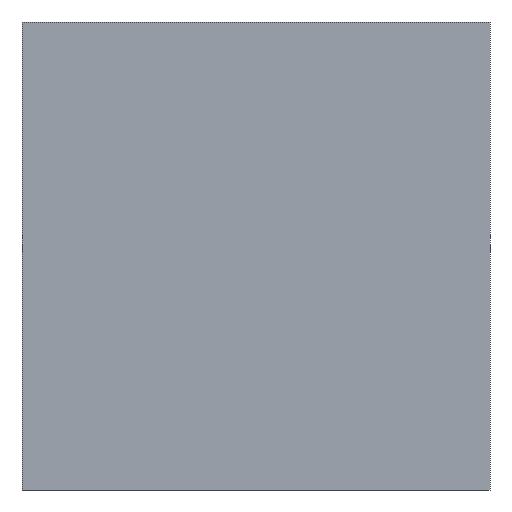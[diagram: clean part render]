
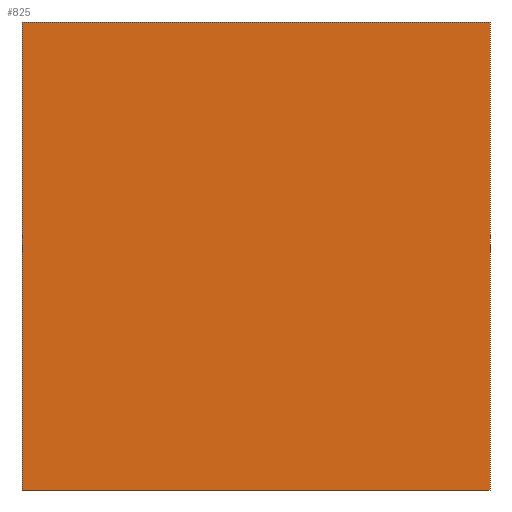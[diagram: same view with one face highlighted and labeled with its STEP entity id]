
A CAD part, front view. The second image highlights one B-rep face of the part: STEP entity #825.
In plain terms, the highlighted planar face has unit normal (0, -1, 0).
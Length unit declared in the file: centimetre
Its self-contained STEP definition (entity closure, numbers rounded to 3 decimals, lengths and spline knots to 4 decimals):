
#52 = ORIENTED_EDGE ( 'NONE', *, *, #367, .T. ) ;
#58 = CARTESIAN_POINT ( 'NONE',  ( 0., 0., 1000. ) ) ;
#62 = ORIENTED_EDGE ( 'NONE', *, *, #333, .F. ) ;
#124 = DIRECTION ( 'NONE',  ( 0., 0., -1. ) ) ;
#153 = DIRECTION ( 'NONE',  ( 0., 0., 1. ) ) ;
#170 = CARTESIAN_POINT ( 'NONE',  ( 0., 0., 0. ) ) ;
#180 = DIRECTION ( 'NONE',  ( 1., 0., 0. ) ) ;
#220 = LINE ( 'NONE', #424, #339 ) ;
#221 = PLANE ( 'NONE',  #628 ) ;
#236 = VERTEX_POINT ( 'NONE', #170 ) ;
#244 = CARTESIAN_POINT ( 'NONE',  ( 0., 0., 1000. ) ) ;
#248 = EDGE_CURVE ( 'NONE', #236, #563, #220, .T. ) ;
#258 = LINE ( 'NONE', #458, #564 ) ;
#290 = DIRECTION ( 'NONE',  ( 1., 0., 0. ) ) ;
#300 = CARTESIAN_POINT ( 'NONE',  ( 1000., 0., 0. ) ) ;
#308 = EDGE_LOOP ( 'NONE', ( #633, #62, #819, #52 ) ) ;
#328 = LINE ( 'NONE', #594, #521 ) ;
#333 = EDGE_CURVE ( 'NONE', #635, #563, #328, .T. ) ;
#339 = VECTOR ( 'NONE', #290, 100. ) ;
#367 = EDGE_CURVE ( 'NONE', #669, #236, #258, .T. ) ;
#424 = CARTESIAN_POINT ( 'NONE',  ( 0., 0., 0. ) ) ;
#458 = CARTESIAN_POINT ( 'NONE',  ( 0., 0., 1000. ) ) ;
#496 = DIRECTION ( 'NONE',  ( 0., 1., 0. ) ) ;
#507 = CARTESIAN_POINT ( 'NONE',  ( 1000., 0., 1000. ) ) ;
#521 = VECTOR ( 'NONE', #780, 100. ) ;
#548 = VECTOR ( 'NONE', #180, 100. ) ;
#563 = VERTEX_POINT ( 'NONE', #300 ) ;
#564 = VECTOR ( 'NONE', #124, 100. ) ;
#594 = CARTESIAN_POINT ( 'NONE',  ( 1000., 0., 1000. ) ) ;
#611 = FACE_OUTER_BOUND ( 'NONE', #308, .T. ) ;
#628 = AXIS2_PLACEMENT_3D ( 'NONE', #667, #496, #153 ) ;
#633 = ORIENTED_EDGE ( 'NONE', *, *, #248, .T. ) ;
#635 = VERTEX_POINT ( 'NONE', #507 ) ;
#658 = EDGE_CURVE ( 'NONE', #669, #635, #838, .T. ) ;
#667 = CARTESIAN_POINT ( 'NONE',  ( 0., 0., 1000. ) ) ;
#669 = VERTEX_POINT ( 'NONE', #58 ) ;
#780 = DIRECTION ( 'NONE',  ( 0., 0., -1. ) ) ;
#819 = ORIENTED_EDGE ( 'NONE', *, *, #658, .F. ) ;
#825 = ADVANCED_FACE ( 'NONE', ( #611 ), #221, .F. ) ;
#838 = LINE ( 'NONE', #244, #548 ) ;
